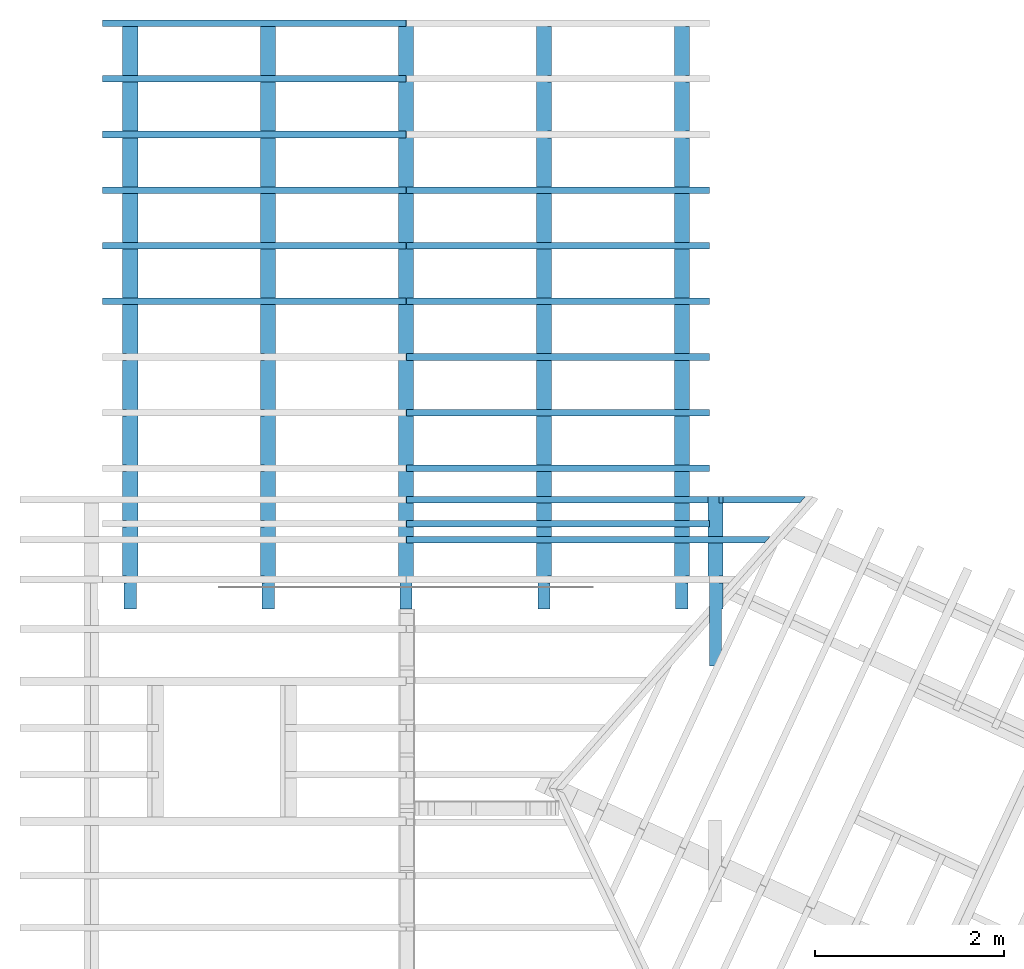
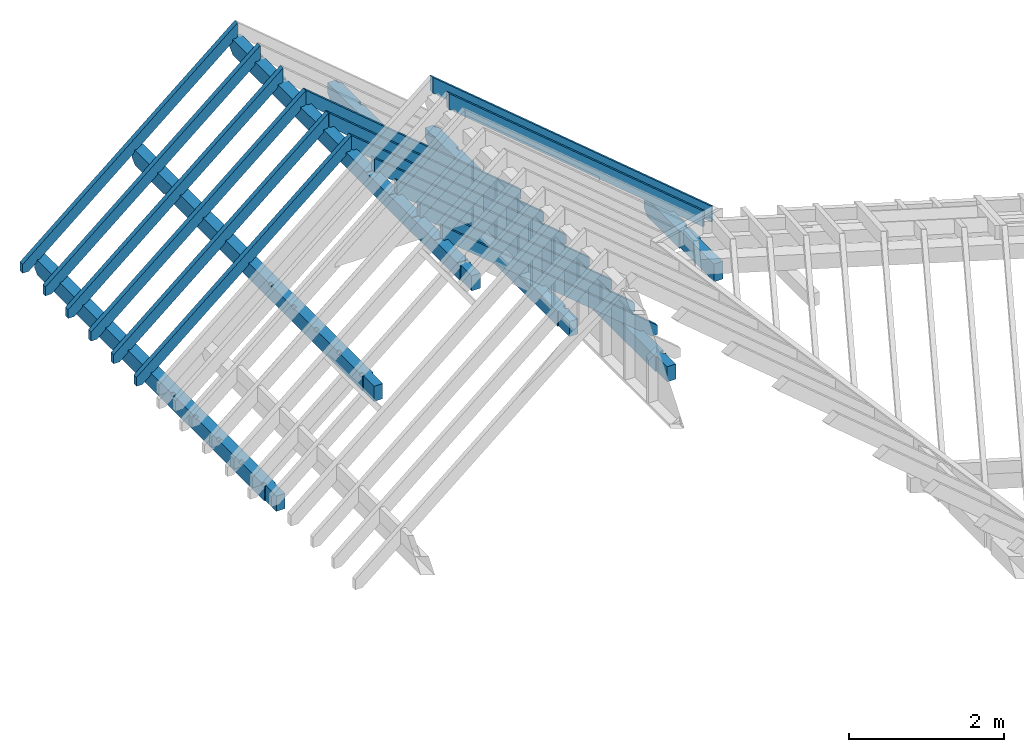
# One storey, part 6 of 11: 21 members.
"""IFC2X3 building model written with IfcOpenShell, lengths in metres."""

from ifc_helpers import new_model, si_unit, direction, frame, origin_with_axes, place, context, subcontext, project, spatial, faceted_brep, material, element, save


model = new_model("IFC2X3")

# Units and contexts
model_context = context("Model", 3, precision=1e-06, world=origin_with_axes(), true_north=direction((0.0, 1.0, 0.0)))
body_context = subcontext(model_context, "Body", "Model", "MODEL_VIEW")
ifc_project = project(units=[si_unit("LENGTHUNIT", "METRE"), si_unit("AREAUNIT", "SQUARE_METRE"), si_unit("VOLUMEUNIT", "CUBIC_METRE"), si_unit("PLANEANGLEUNIT", "RADIAN")], contexts=[model_context])

# Site, building, storey
site_placement = place(None, origin_with_axes())
site = spatial("IfcSite", under=ifc_project, at=site_placement, CompositionType="ELEMENT")
building_placement = place(site_placement, origin_with_axes())
building = spatial("IfcBuilding", under=site, at=building_placement, Name="Building 1", CompositionType="ELEMENT")
storey_placement = place(building_placement, origin_with_axes())
storey = spatial("IfcBuildingStorey", under=building, at=storey_placement, Name="Comble et couverture", CompositionType="ELEMENT", Elevation=0.0)

# Members
ifc_material = material(Name="NH II")
member_1_placement = place(storey_placement, frame((6.631, 7.076, 4.1310549), z_axis=(0.0, 0.0, 1.0), x_axis=(0.0, 1.0, 0.0)))
element("IfcMember", 1, at=member_1_placement, inside=storey, material=ifc_material, Name="Panne", context=body_context, shape_type="Brep", body=[
    faceted_brep([(0.6, -0.08, -0.14), (0.6, -0.065, -0.14), (0.0, -0.065, -0.14), (0.0, 0.065, -0.14), (0.878, 0.065, -0.14), (0.878, 0.08, -0.14), (1.6987918, 0.08, -0.14), (1.6987918, -0.08, -0.14), (0.6, -0.08, 0.14), (0.6, -0.065, 0.14), (0.0, -0.065, 0.14), (0.879, -0.08, 0.14), (0.879, -0.0378342, 0.14), (0.949, -0.0378342, 0.14), (0.949, -0.08, 0.14), (1.3005626, -0.08, 0.14), (1.3005626, -0.0378342, 0.14), (1.3705626, -0.0378342, 0.14), (1.3705626, -0.08, 0.14), (1.7221251, -0.08, 0.14), (1.7221251, -0.0378342, 0.14), (1.7921251, -0.0378342, 0.14), (1.7921251, 0.08, 0.14), (0.878, 0.08, 0.14), (0.878, 0.065, 0.14), (0.0, 0.065, 0.14), (1.7921251, -0.08, -0.0466667), (1.7921251, -0.08, 0.1046187), (1.7221251, -0.08, 0.1046187), (1.3705626, -0.08, 0.1046187), (1.3005626, -0.08, 0.1046187), (0.949, -0.08, 0.1046187), (0.879, -0.08, 0.1046187), (1.7921251, 0.08, -0.0466667)], [[[0, 1, 2, 3, 4, 5, 6, 7]], [[8, 9, 1, 0]], [[9, 10, 2, 1]], [[9, 8, 11, 12, 13, 14, 15, 16, 17, 18, 19, 20, 21, 22, 23, 24, 25, 10]], [[8, 0, 7, 26, 27, 28, 19, 18, 29, 30, 15, 14, 31, 32, 11]], [[4, 3, 25, 24]], [[2, 10, 25, 3]], [[5, 23, 22, 33, 6]], [[7, 6, 33, 26]], [[26, 33, 22, 21, 27]], [[28, 27, 21, 20]], [[19, 28, 20]], [[5, 4, 24, 23]], [[14, 13, 31]], [[12, 11, 32]], [[13, 12, 32, 31]], [[29, 18, 17]], [[15, 30, 16]], [[30, 29, 17, 16]]]),
])
member_2_placement = place(storey_placement, frame((4.814, 7.676, 3.515661), z_axis=(0.0, 0.0, 1.0), x_axis=(0.0, 1.0, 0.0)))
element("IfcMember", 2, at=member_2_placement, inside=storey, material=ifc_material, Name="Panne", context=body_context, shape_type="Brep", body=[
    faceted_brep([(5.2585, 0.08, -0.12), (5.2585, 0.08, -0.105), (5.2585, -0.08, -0.105), (5.2585, -0.08, -0.12), (5.4185, 0.08, -0.105), (5.4185, -0.08, -0.105), (5.4185, 0.08, -0.12), (5.4185, -0.08, -0.12), (0.278, 0.08, -0.12), (0.278, 0.08, 0.12), (6.2385, 0.08, 0.12), (6.2385, 0.08, -0.04), (6.1585, 0.08, -0.12), (0.278, -0.08, -0.12), (0.278, -0.065, -0.12), (0.0, -0.065, -0.12), (0.0, 0.065, -0.12), (0.278, 0.065, -0.12), (0.278, -0.065, 0.12), (0.0, -0.065, 0.12), (0.278, -0.08, 0.12), (0.0, 0.065, 0.12), (0.279, -0.08, 0.12), (0.279, -0.0382886, 0.12), (0.349, -0.0382886, 0.12), (0.349, -0.08, 0.12), (0.86795, -0.08, 0.12), (0.86795, -0.0382886, 0.12), (0.93795, -0.0382886, 0.12), (0.93795, -0.08, 0.12), (1.4569, -0.08, 0.12), (1.4569, -0.0382886, 0.12), (1.5269, -0.0382886, 0.12), (1.5269, -0.08, 0.12), (2.04585, -0.08, 0.12), (2.04585, -0.0382886, 0.12), (2.11585, -0.0382886, 0.12), (2.11585, -0.08, 0.12), (2.6348, -0.08, 0.12), (2.6348, -0.0382886, 0.12), (2.7048, -0.0382886, 0.12), (2.7048, -0.08, 0.12), (3.22375, -0.08, 0.12), (3.22375, -0.0382886, 0.12), (3.29375, -0.0382886, 0.12), (3.29375, -0.08, 0.12), (3.8127, -0.08, 0.12), (3.8127, -0.0382886, 0.12), (3.8827, -0.0382886, 0.12), (3.8827, -0.08, 0.12), (4.40165, -0.08, 0.12), (4.40165, -0.0382886, 0.12), (4.47165, -0.0382886, 0.12), (4.47165, -0.08, 0.12), (4.9906, -0.08, 0.12), (4.9906, -0.0382886, 0.12), (5.0606, -0.0382886, 0.12), (5.0606, -0.08, 0.12), (5.57955, -0.08, 0.12), (5.57955, -0.0382886, 0.12), (5.64955, -0.0382886, 0.12), (5.64955, -0.08, 0.12), (6.1685, -0.08, 0.12), (6.1685, -0.0382886, 0.12), (6.2385, -0.0382886, 0.12), (0.278, 0.065, 0.12), (6.2385, -0.08, -0.04), (6.1585, -0.08, -0.12), (6.2385, -0.08, 0.085), (6.1685, -0.08, 0.085), (5.64955, -0.08, 0.085), (5.57955, -0.08, 0.085), (5.0606, -0.08, 0.085), (4.9906, -0.08, 0.085), (4.47165, -0.08, 0.085), (4.40165, -0.08, 0.085), (3.8827, -0.08, 0.085), (3.8127, -0.08, 0.085), (3.29375, -0.08, 0.085), (3.22375, -0.08, 0.085), (2.7048, -0.08, 0.085), (2.6348, -0.08, 0.085), (2.11585, -0.08, 0.085), (2.04585, -0.08, 0.085), (1.5269, -0.08, 0.085), (1.4569, -0.08, 0.085), (0.93795, -0.08, 0.085), (0.86795, -0.08, 0.085), (0.349, -0.08, 0.085), (0.279, -0.08, 0.085)], [[[0, 1, 2, 3]], [[1, 4, 5, 2]], [[4, 6, 7, 5]], [[6, 4, 1, 0, 8, 9, 10, 11, 12]], [[0, 3, 13, 14, 15, 16, 17, 8]], [[15, 14, 18, 19]], [[14, 13, 20, 18]], [[15, 19, 21, 16]], [[19, 18, 20, 22, 23, 24, 25, 26, 27, 28, 29, 30, 31, 32, 33, 34, 35, 36, 37, 38, 39, 40, 41, 42, 43, 44, 45, 46, 47, 48, 49, 50, 51, 52, 53, 54, 55, 56, 57, 58, 59, 60, 61, 62, 63, 64, 10, 9, 65, 21]], [[17, 16, 21, 65]], [[8, 17, 65, 9]], [[11, 66, 67, 12]], [[5, 7, 67, 66, 68, 69, 62, 61, 70, 71, 58, 57, 72, 73, 54, 53, 74, 75, 50, 49, 76, 77, 46, 45, 78, 79, 42, 41, 80, 81, 38, 37, 82, 83, 34, 33, 84, 85, 30, 29, 86, 87, 26, 25, 88, 89, 22, 20, 13, 3, 2]], [[66, 11, 10, 64, 68]], [[63, 62, 69]], [[64, 63, 69, 68]], [[37, 36, 82]], [[35, 34, 83]], [[36, 35, 83, 82]], [[33, 32, 84]], [[31, 30, 85]], [[32, 31, 85, 84]], [[29, 28, 86]], [[27, 26, 87]], [[28, 27, 87, 86]], [[61, 60, 70]], [[59, 58, 71]], [[60, 59, 71, 70]], [[57, 56, 72]], [[55, 54, 73]], [[56, 55, 73, 72]], [[53, 52, 74]], [[51, 50, 75]], [[52, 51, 75, 74]], [[49, 48, 76]], [[47, 46, 77]], [[48, 47, 77, 76]], [[45, 44, 78]], [[43, 42, 79]], [[44, 43, 79, 78]], [[41, 40, 80]], [[39, 38, 81]], [[40, 39, 81, 80]], [[25, 24, 88]], [[23, 22, 89]], [[24, 23, 89, 88]], [[7, 6, 12, 67]]]),
])
member_3_placement = place(storey_placement, frame((6.274, 7.676, 2.2905755), z_axis=(0.0, 0.0, 1.0), x_axis=(0.0, 1.0, 0.0)))
element("IfcMember", 3, at=member_3_placement, inside=storey, material=ifc_material, Name="Panne", context=body_context, shape_type="Brep", body=[
    faceted_brep([(6.2385, 0.08, 0.12), (0.278, 0.08, 0.12), (0.278, 0.065, 0.12), (0.0, 0.065, 0.12), (0.0, -0.065, 0.12), (0.278, -0.065, 0.12), (0.278, -0.08, 0.12), (0.279, -0.08, 0.12), (0.279, -0.0382886, 0.12), (0.349, -0.0382886, 0.12), (0.349, -0.08, 0.12), (0.86795, -0.08, 0.12), (0.86795, -0.0382886, 0.12), (0.93795, -0.0382886, 0.12), (0.93795, -0.08, 0.12), (1.4569, -0.08, 0.12), (1.4569, -0.0382886, 0.12), (1.5269, -0.0382886, 0.12), (1.5269, -0.08, 0.12), (2.04585, -0.08, 0.12), (2.04585, -0.0382886, 0.12), (2.11585, -0.0382886, 0.12), (2.11585, -0.08, 0.12), (2.6348, -0.08, 0.12), (2.6348, -0.0382886, 0.12), (2.7048, -0.0382886, 0.12), (2.7048, -0.08, 0.12), (3.22375, -0.08, 0.12), (3.22375, -0.0382886, 0.12), (3.29375, -0.0382886, 0.12), (3.29375, -0.08, 0.12), (3.8127, -0.08, 0.12), (3.8127, -0.0382886, 0.12), (3.8827, -0.0382886, 0.12), (3.8827, -0.08, 0.12), (4.40165, -0.08, 0.12), (4.40165, -0.0382886, 0.12), (4.47165, -0.0382886, 0.12), (4.47165, -0.08, 0.12), (4.9906, -0.08, 0.12), (4.9906, -0.0382886, 0.12), (5.0606, -0.0382886, 0.12), (5.0606, -0.08, 0.12), (5.57955, -0.08, 0.12), (5.57955, -0.0382886, 0.12), (5.64955, -0.0382886, 0.12), (5.64955, -0.08, 0.12), (6.1685, -0.08, 0.12), (6.1685, -0.0382886, 0.12), (6.2385, -0.0382886, 0.12), (6.2385, 0.08, -0.04), (6.1585, 0.08, -0.12), (0.278, 0.08, -0.12), (0.0, -0.065, -0.12), (0.278, -0.065, -0.12), (0.278, -0.08, -0.12), (0.0, 0.065, -0.12), (0.278, 0.065, -0.12), (6.2385, -0.08, -0.04), (6.1585, -0.08, -0.12), (6.2385, -0.08, 0.085), (6.1685, -0.08, 0.085), (5.64955, -0.08, 0.085), (5.57955, -0.08, 0.085), (5.0606, -0.08, 0.085), (4.9906, -0.08, 0.085), (4.47165, -0.08, 0.085), (4.40165, -0.08, 0.085), (3.8827, -0.08, 0.085), (3.8127, -0.08, 0.085), (3.29375, -0.08, 0.085), (3.22375, -0.08, 0.085), (2.7048, -0.08, 0.085), (2.6348, -0.08, 0.085), (2.11585, -0.08, 0.085), (2.04585, -0.08, 0.085), (1.5269, -0.08, 0.085), (1.4569, -0.08, 0.085), (0.93795, -0.08, 0.085), (0.86795, -0.08, 0.085), (0.349, -0.08, 0.085), (0.279, -0.08, 0.085)], [[[0, 1, 2, 3, 4, 5, 6, 7, 8, 9, 10, 11, 12, 13, 14, 15, 16, 17, 18, 19, 20, 21, 22, 23, 24, 25, 26, 27, 28, 29, 30, 31, 32, 33, 34, 35, 36, 37, 38, 39, 40, 41, 42, 43, 44, 45, 46, 47, 48, 49]], [[1, 0, 50, 51, 52]], [[53, 54, 5, 4]], [[54, 55, 6, 5]], [[53, 4, 3, 56]], [[57, 56, 3, 2]], [[52, 57, 2, 1]], [[50, 58, 59, 51]], [[6, 55, 59, 58, 60, 61, 47, 46, 62, 63, 43, 42, 64, 65, 39, 38, 66, 67, 35, 34, 68, 69, 31, 30, 70, 71, 27, 26, 72, 73, 23, 22, 74, 75, 19, 18, 76, 77, 15, 14, 78, 79, 11, 10, 80, 81, 7]], [[58, 50, 0, 49, 60]], [[48, 47, 61]], [[49, 48, 61, 60]], [[22, 21, 74]], [[20, 19, 75]], [[21, 20, 75, 74]], [[18, 17, 76]], [[16, 15, 77]], [[17, 16, 77, 76]], [[14, 13, 78]], [[12, 11, 79]], [[13, 12, 79, 78]], [[46, 45, 62]], [[44, 43, 63]], [[45, 44, 63, 62]], [[42, 41, 64]], [[40, 39, 65]], [[41, 40, 65, 64]], [[38, 37, 66]], [[36, 35, 67]], [[37, 36, 67, 66]], [[34, 33, 68]], [[32, 31, 69]], [[33, 32, 69, 68]], [[30, 29, 70]], [[28, 27, 71]], [[29, 28, 71, 70]], [[26, 25, 72]], [[24, 23, 73]], [[25, 24, 73, 72]], [[10, 9, 80]], [[8, 7, 81]], [[9, 8, 81, 80]], [[52, 51, 59, 55, 54, 53, 56, 57]]]),
])
for number, where, z_axis, x_axis, name in (
    (4, (3.3033887, 8.57895, 5.0430385), (0.6427876, 0.0, 0.7660444), (0.7660444, 0.0, -0.6427876), "Chevron"),
    (5, (3.3033887, 12.11265, 5.0430385), (0.6427876, 0.0, 0.7660444), (0.7660444, 0.0, -0.6427876), "Chevron"),
):
    element("IfcMember", number, at=place(storey_placement, frame(where, z_axis=z_axis, x_axis=x_axis)), inside=storey, material=ifc_material, Name=name, context=body_context, shape_type="Brep", body=[
        faceted_brep([(0.0, 0.035, 0.0825), (0.0, -0.035, 0.0825), (4.1925587, -0.035, 0.0825), (4.1925587, 0.035, 0.0825), (0.2397267, -0.035, -0.0825), (0.2397267, 0.035, -0.0825), (4.2137207, 0.035, -0.0825), (4.2137207, -0.035, -0.0825), (0.1852763, -0.035, -0.0825), (0.2172291, -0.035, -0.0556884), (4.282549, -0.035, -0.0247462), (0.1384514, -0.035, -0.0825), (0.2172291, 0.035, -0.0556884), (0.1852763, 0.035, -0.0825), (0.1384514, 0.035, -0.0825), (4.282549, 0.035, -0.0247462)], [[[0, 1, 2, 3]], [[4, 5, 6, 7]], [[8, 9, 4, 7, 10, 2, 1, 11]], [[12, 13, 14, 0, 3, 15, 6, 5]], [[13, 12, 9, 8]], [[12, 5, 4, 9]], [[13, 8, 11, 14]], [[0, 14, 11, 1]], [[10, 15, 3, 2]], [[6, 15, 10, 7]]]),
    ])
member_4_placement = place(storey_placement, frame((3.4044486, 12.11265, 5.042902), z_axis=(-0.6427876, 0.0, 0.7660444), x_axis=(-0.7660444, 0.0, -0.6427876)))
element("IfcMember", 6, at=member_4_placement, inside=storey, material=ifc_material, Name="Chevron", context=body_context, shape_type="Brep", body=[
    faceted_brep([(4.2823188, 0.035, -0.0247612), (4.2823188, -0.035, -0.0247612), (4.2135084, -0.035, -0.0825), (4.2135084, 0.035, -0.0825), (4.1923159, -0.035, 0.0825), (0.0, -0.035, 0.0825), (0.1384514, -0.035, -0.0825), (0.185064, -0.035, -0.0825), (0.2170168, -0.035, -0.0556884), (0.2395143, -0.035, -0.0825), (4.1923159, 0.035, 0.0825), (0.2395143, 0.035, -0.0825), (0.2170168, 0.035, -0.0556884), (0.185064, 0.035, -0.0825), (0.1384514, 0.035, -0.0825), (0.0, 0.035, 0.0825)], [[[0, 1, 2, 3]], [[2, 1, 4, 5, 6, 7, 8, 9]], [[1, 0, 10, 4]], [[0, 3, 11, 12, 13, 14, 15, 10]], [[9, 8, 12, 11]], [[8, 7, 13, 12]], [[13, 7, 6, 14]], [[3, 2, 9, 11]], [[15, 14, 6, 5]], [[4, 10, 15, 5]]]),
])
member_5_placement = place(storey_placement, frame((3.3033887, 11.5237, 5.0430385), z_axis=(0.6427876, 0.0, 0.7660444), x_axis=(0.7660444, 0.0, -0.6427876)))
element("IfcMember", 7, at=member_5_placement, inside=storey, material=ifc_material, Name="Chevron", context=body_context, shape_type="Brep", body=[
    faceted_brep([(0.0, 0.035, 0.0825), (0.0, -0.035, 0.0825), (4.1925587, -0.035, 0.0825), (4.1925587, 0.035, 0.0825), (0.2397267, -0.035, -0.0825), (0.2397267, 0.035, -0.0825), (4.2137207, 0.035, -0.0825), (4.2137207, -0.035, -0.0825), (0.1852763, -0.035, -0.0825), (0.2172291, -0.035, -0.0556884), (4.282549, -0.035, -0.0247462), (0.1384514, -0.035, -0.0825), (0.2172291, 0.035, -0.0556884), (0.1852763, 0.035, -0.0825), (0.1384514, 0.035, -0.0825), (4.282549, 0.035, -0.0247462)], [[[0, 1, 2, 3]], [[4, 5, 6, 7]], [[8, 9, 4, 7, 10, 2, 1, 11]], [[12, 13, 14, 0, 3, 15, 6, 5]], [[13, 12, 9, 8]], [[12, 5, 4, 9]], [[13, 8, 11, 14]], [[0, 14, 11, 1]], [[10, 15, 3, 2]], [[6, 15, 10, 7]]]),
])
member_6_placement = place(storey_placement, frame((3.294711, 8.4115626, 7.2275995), z_axis=(0.6427876, 0.0, 0.7660444), x_axis=(0.7660444, 0.0, -0.6427876)))
element("IfcMember", 8, at=member_6_placement, inside=storey, material=ifc_material, Name="Chevron", context=body_context, shape_type="Brep", body=[
    faceted_brep([(5.113018, -0.035, -0.096), (5.1933648, 0.035, -0.096), (5.0322577, 0.035, 0.096), (4.9519109, -0.035, 0.096), (0.2622762, 0.035, -0.096), (0.2397786, 0.035, -0.0691884), (0.2078259, 0.035, -0.096), (0.1611071, 0.035, -0.096), (0.0, 0.035, 0.096), (0.2622762, -0.035, -0.096), (0.0, -0.035, 0.096), (0.1611071, -0.035, -0.096), (0.2078259, -0.035, -0.096), (0.2397786, -0.035, -0.0691884)], [[[0, 1, 2, 3]], [[2, 1, 4, 5, 6, 7, 8]], [[1, 0, 9, 4]], [[0, 3, 10, 11, 12, 13, 9]], [[3, 2, 8, 10]], [[6, 5, 13, 12]], [[5, 4, 9, 13]], [[6, 12, 11, 7]], [[10, 8, 7, 11]]]),
])
member_7_placement = place(storey_placement, frame((1.894, 13.9145, 3.515661), z_axis=(0.0, 0.0, 1.0), x_axis=(0.0, -1.0, 0.0)))
element("IfcMember", 9, at=member_7_placement, inside=storey, material=ifc_material, Name="Panne", context=body_context, shape_type="Brep", body=[
    faceted_brep([(0.82, 0.08, -0.12), (0.82, 0.08, -0.105), (0.82, -0.08, -0.105), (0.82, -0.08, -0.12), (0.98, 0.08, -0.105), (0.98, -0.08, -0.105), (0.98, 0.08, -0.12), (0.98, -0.08, -0.12), (0.08, 0.08, -0.12), (0.0, 0.08, -0.04), (0.0, 0.08, 0.12), (5.9605, 0.08, 0.12), (5.9605, 0.08, -0.12), (0.08, -0.08, -0.12), (5.9605, 0.065, 0.12), (5.9605, 0.065, -0.12), (6.2385, 0.065, 0.12), (6.2385, 0.065, -0.12), (6.2385, -0.065, -0.12), (5.9605, -0.065, -0.12), (5.9605, -0.08, -0.12), (6.2385, -0.065, 0.12), (5.9605, -0.065, 0.12), (5.9605, -0.08, 0.12), (0.0, -0.08, -0.04), (5.9595, -0.08, 0.12), (5.9595, -0.08, 0.085), (5.8895, -0.08, 0.085), (5.8895, -0.08, 0.12), (5.37055, -0.08, 0.12), (5.37055, -0.08, 0.085), (5.30055, -0.08, 0.085), (5.30055, -0.08, 0.12), (4.7816, -0.08, 0.12), (4.7816, -0.08, 0.085), (4.7116, -0.08, 0.085), (4.7116, -0.08, 0.12), (4.19265, -0.08, 0.12), (4.19265, -0.08, 0.085), (4.12265, -0.08, 0.085), (4.12265, -0.08, 0.12), (3.6037, -0.08, 0.12), (3.6037, -0.08, 0.085), (3.5337, -0.08, 0.085), (3.5337, -0.08, 0.12), (3.01475, -0.08, 0.12), (3.01475, -0.08, 0.085), (2.94475, -0.08, 0.085), (2.94475, -0.08, 0.12), (2.4258, -0.08, 0.12), (2.4258, -0.08, 0.085), (2.3558, -0.08, 0.085), (2.3558, -0.08, 0.12), (1.83685, -0.08, 0.12), (1.83685, -0.08, 0.085), (1.76685, -0.08, 0.085), (1.76685, -0.08, 0.12), (1.2479, -0.08, 0.12), (1.2479, -0.08, 0.085), (1.1779, -0.08, 0.085), (1.1779, -0.08, 0.12), (0.65895, -0.08, 0.12), (0.65895, -0.08, 0.085), (0.58895, -0.08, 0.085), (0.58895, -0.08, 0.12), (0.07, -0.08, 0.12), (0.07, -0.08, 0.085), (0.0, -0.08, 0.085), (4.12265, -0.0382886, 0.12), (4.19265, -0.0382886, 0.12), (0.0, -0.0382886, 0.12), (0.07, -0.0382886, 0.12), (0.58895, -0.0382886, 0.12), (0.65895, -0.0382886, 0.12), (1.1779, -0.0382886, 0.12), (1.2479, -0.0382886, 0.12), (1.76685, -0.0382886, 0.12), (1.83685, -0.0382886, 0.12), (2.3558, -0.0382886, 0.12), (2.4258, -0.0382886, 0.12), (2.94475, -0.0382886, 0.12), (3.01475, -0.0382886, 0.12), (3.5337, -0.0382886, 0.12), (3.6037, -0.0382886, 0.12), (4.7116, -0.0382886, 0.12), (4.7816, -0.0382886, 0.12), (5.30055, -0.0382886, 0.12), (5.37055, -0.0382886, 0.12), (5.8895, -0.0382886, 0.12), (5.9595, -0.0382886, 0.12)], [[[0, 1, 2, 3]], [[1, 4, 5, 2]], [[4, 6, 7, 5]], [[6, 4, 1, 0, 8, 9, 10, 11, 12]], [[0, 3, 13, 8]], [[11, 14, 15, 12]], [[14, 16, 17, 15]], [[7, 6, 12, 15, 17, 18, 19, 20]], [[21, 22, 19, 18]], [[22, 23, 20, 19]], [[17, 16, 21, 18]], [[8, 13, 24, 9]], [[5, 7, 20, 23, 25, 26, 27, 28, 29, 30, 31, 32, 33, 34, 35, 36, 37, 38, 39, 40, 41, 42, 43, 44, 45, 46, 47, 48, 49, 50, 51, 52, 53, 54, 55, 56, 57, 58, 59, 60, 61, 62, 63, 64, 65, 66, 67, 24, 13, 3, 2]], [[40, 39, 68]], [[38, 37, 69]], [[39, 38, 69, 68]], [[14, 11, 10, 70, 71, 65, 64, 72, 73, 61, 60, 74, 75, 57, 56, 76, 77, 53, 52, 78, 79, 49, 48, 80, 81, 45, 44, 82, 83, 41, 40, 68, 69, 37, 36, 84, 85, 33, 32, 86, 87, 29, 28, 88, 89, 25, 23, 22, 21, 16]], [[36, 35, 84]], [[34, 33, 85]], [[35, 34, 85, 84]], [[32, 31, 86]], [[30, 29, 87]], [[31, 30, 87, 86]], [[64, 63, 72]], [[62, 61, 73]], [[63, 62, 73, 72]], [[60, 59, 74]], [[58, 57, 75]], [[59, 58, 75, 74]], [[56, 55, 76]], [[54, 53, 77]], [[55, 54, 77, 76]], [[52, 51, 78]], [[50, 49, 79]], [[51, 50, 79, 78]], [[48, 47, 80]], [[46, 45, 81]], [[47, 46, 81, 80]], [[44, 43, 82]], [[42, 41, 83]], [[43, 42, 83, 82]], [[66, 65, 71]], [[67, 66, 71, 70]], [[9, 24, 67, 70, 10]], [[89, 88, 27, 26]], [[25, 89, 26]], [[88, 28, 27]]]),
])
member_8_placement = place(storey_placement, frame((3.294711, 8.8331251, 7.2275995), z_axis=(0.6427876, 0.0, 0.7660444), x_axis=(0.7660444, 0.0, -0.6427876)))
element("IfcMember", 10, at=member_8_placement, inside=storey, material=ifc_material, Name="Chevron", context=body_context, shape_type="Brep", body=[
    faceted_brep([(5.6619545, 0.035, -0.0777844), (5.640246, 0.0027707, -0.096), (5.640246, 0.035, -0.096), (5.5968923, -0.035, -0.096), (0.2622762, -0.035, -0.096), (0.2622762, 0.035, -0.096), (5.516132, 0.035, 0.096), (5.4357852, -0.035, 0.096), (0.2397786, 0.035, -0.0691884), (0.2078259, 0.035, -0.096), (0.1611071, 0.035, -0.096), (0.0, 0.035, 0.096), (0.0, -0.035, 0.096), (0.1611071, -0.035, -0.096), (0.2078259, -0.035, -0.096), (0.2397786, -0.035, -0.0691884)], [[[0, 1, 2]], [[2, 1, 3, 4, 5]], [[1, 0, 6, 7, 3]], [[0, 2, 5, 8, 9, 10, 11, 6]], [[3, 7, 12, 13, 14, 15, 4]], [[7, 6, 11, 12]], [[9, 8, 15, 14]], [[8, 5, 4, 15]], [[9, 14, 13, 10]], [[12, 11, 10, 13]]]),
])
member_9_placement = place(storey_placement, frame((3.3033887, 9.75685, 5.0430385), z_axis=(0.6427876, 0.0, 0.7660444), x_axis=(0.7660444, 0.0, -0.6427876)))
element("IfcMember", 11, at=member_9_placement, inside=storey, material=ifc_material, Name="Chevron", context=body_context, shape_type="Brep", body=[
    faceted_brep([(0.0, 0.035, 0.0825), (0.0, -0.035, 0.0825), (4.1925587, -0.035, 0.0825), (4.1925587, 0.035, 0.0825), (0.2397267, -0.035, -0.0825), (0.2397267, 0.035, -0.0825), (4.2137207, 0.035, -0.0825), (4.2137207, -0.035, -0.0825), (0.1852763, -0.035, -0.0825), (0.2172291, -0.035, -0.0556884), (4.282549, -0.035, -0.0247462), (0.1384514, -0.035, -0.0825), (0.2172291, 0.035, -0.0556884), (0.1852763, 0.035, -0.0825), (0.1384514, 0.035, -0.0825), (4.282549, 0.035, -0.0247462)], [[[0, 1, 2, 3]], [[4, 5, 6, 7]], [[8, 9, 4, 7, 10, 2, 1, 11]], [[12, 13, 14, 0, 3, 15, 6, 5]], [[13, 12, 9, 8]], [[12, 5, 4, 9]], [[13, 8, 11, 14]], [[0, 14, 11, 1]], [[10, 15, 3, 2]], [[6, 15, 10, 7]]]),
])
member_10_placement = place(storey_placement, frame((3.4044486, 13.29055, 5.042902), z_axis=(-0.6427876, 0.0, 0.7660444), x_axis=(-0.7660444, 0.0, -0.6427876)))
element("IfcMember", 12, at=member_10_placement, inside=storey, material=ifc_material, Name="Chevron", context=body_context, shape_type="Brep", body=[
    faceted_brep([(4.2823188, 0.035, -0.0247612), (4.2823188, -0.035, -0.0247612), (4.2135084, -0.035, -0.0825), (4.2135084, 0.035, -0.0825), (4.1923159, -0.035, 0.0825), (0.0, -0.035, 0.0825), (0.1384514, -0.035, -0.0825), (0.185064, -0.035, -0.0825), (0.2170168, -0.035, -0.0556884), (0.2395143, -0.035, -0.0825), (4.1923159, 0.035, 0.0825), (0.2395143, 0.035, -0.0825), (0.2170168, 0.035, -0.0556884), (0.185064, 0.035, -0.0825), (0.1384514, 0.035, -0.0825), (0.0, 0.035, 0.0825)], [[[0, 1, 2, 3]], [[2, 1, 4, 5, 6, 7, 8, 9]], [[1, 0, 10, 4]], [[0, 3, 11, 12, 13, 14, 15, 10]], [[9, 8, 12, 11]], [[8, 7, 13, 12]], [[13, 7, 6, 14]], [[3, 2, 9, 11]], [[15, 14, 6, 5]], [[4, 10, 15, 5]]]),
])
member_11_placement = place(storey_placement, frame((3.3033887, 10.93475, 5.0430385), z_axis=(0.6427876, 0.0, 0.7660444), x_axis=(0.7660444, 0.0, -0.6427876)))
element("IfcMember", 13, at=member_11_placement, inside=storey, material=ifc_material, Name="Chevron", context=body_context, shape_type="Brep", body=[
    faceted_brep([(0.0, 0.035, 0.0825), (0.0, -0.035, 0.0825), (4.1925587, -0.035, 0.0825), (4.1925587, 0.035, 0.0825), (0.2397267, -0.035, -0.0825), (0.2397267, 0.035, -0.0825), (4.2137207, 0.035, -0.0825), (4.2137207, -0.035, -0.0825), (0.1852763, -0.035, -0.0825), (0.2172291, -0.035, -0.0556884), (4.282549, -0.035, -0.0247462), (0.1384514, -0.035, -0.0825), (0.2172291, 0.035, -0.0556884), (0.1852763, 0.035, -0.0825), (0.1384514, 0.035, -0.0825), (4.282549, 0.035, -0.0247462)], [[[0, 1, 2, 3]], [[4, 5, 6, 7]], [[8, 9, 4, 7, 10, 2, 1, 11]], [[12, 13, 14, 0, 3, 15, 6, 5]], [[13, 12, 9, 8]], [[12, 5, 4, 9]], [[13, 8, 11, 14]], [[0, 14, 11, 1]], [[10, 15, 3, 2]], [[6, 15, 10, 7]]]),
])
member_12_placement = place(storey_placement, frame((3.4044486, 10.93475, 5.042902), z_axis=(-0.6427876, 0.0, 0.7660444), x_axis=(-0.7660444, 0.0, -0.6427876)))
element("IfcMember", 14, at=member_12_placement, inside=storey, material=ifc_material, Name="Chevron", context=body_context, shape_type="Brep", body=[
    faceted_brep([(4.2823188, 0.035, -0.0247612), (4.2823188, -0.035, -0.0247612), (4.2135084, -0.035, -0.0825), (4.2135084, 0.035, -0.0825), (4.1923159, -0.035, 0.0825), (0.0, -0.035, 0.0825), (0.1384514, -0.035, -0.0825), (0.185064, -0.035, -0.0825), (0.2170168, -0.035, -0.0556884), (0.2395143, -0.035, -0.0825), (4.1923159, 0.035, 0.0825), (0.2395143, 0.035, -0.0825), (0.2170168, 0.035, -0.0556884), (0.185064, 0.035, -0.0825), (0.1384514, 0.035, -0.0825), (0.0, 0.035, 0.0825)], [[[0, 1, 2, 3]], [[2, 1, 4, 5, 6, 7, 8, 9]], [[1, 0, 10, 4]], [[0, 3, 11, 12, 13, 14, 15, 10]], [[9, 8, 12, 11]], [[8, 7, 13, 12]], [[13, 7, 6, 14]], [[3, 2, 9, 11]], [[15, 14, 6, 5]], [[4, 10, 15, 5]]]),
])
member_13_placement = place(storey_placement, frame((3.3033887, 10.3458, 5.0430385), z_axis=(0.6427876, 0.0, 0.7660444), x_axis=(0.7660444, 0.0, -0.6427876)))
element("IfcMember", 15, at=member_13_placement, inside=storey, material=ifc_material, Name="Chevron", context=body_context, shape_type="Brep", body=[
    faceted_brep([(0.0, 0.035, 0.0825), (0.0, -0.035, 0.0825), (4.1925587, -0.035, 0.0825), (4.1925587, 0.035, 0.0825), (0.2397267, -0.035, -0.0825), (0.2397267, 0.035, -0.0825), (4.2137207, 0.035, -0.0825), (4.2137207, -0.035, -0.0825), (0.1852763, -0.035, -0.0825), (0.2172291, -0.035, -0.0556884), (4.282549, -0.035, -0.0247462), (0.1384514, -0.035, -0.0825), (0.2172291, 0.035, -0.0556884), (0.1852763, 0.035, -0.0825), (0.1384514, 0.035, -0.0825), (4.282549, 0.035, -0.0247462)], [[[0, 1, 2, 3]], [[4, 5, 6, 7]], [[8, 9, 4, 7, 10, 2, 1, 11]], [[12, 13, 14, 0, 3, 15, 6, 5]], [[13, 12, 9, 8]], [[12, 5, 4, 9]], [[13, 8, 11, 14]], [[0, 14, 11, 1]], [[10, 15, 3, 2]], [[6, 15, 10, 7]]]),
])
for number, where, z_axis, x_axis, name in (
    (16, (3.4044486, 11.5237, 5.042902), (-0.6427876, 0.0, 0.7660444), (-0.7660444, 0.0, -0.6427876), "Chevron"),
    (17, (3.4044486, 12.7016, 5.042902), (-0.6427876, 0.0, 0.7660444), (-0.7660444, 0.0, -0.6427876), "Chevron"),
    (18, (3.4044486, 13.8795, 5.042902), (-0.6427876, 0.0, 0.7660444), (-0.7660444, 0.0, -0.6427876), "Chevron"),
):
    element("IfcMember", number, at=place(storey_placement, frame(where, z_axis=z_axis, x_axis=x_axis)), inside=storey, material=ifc_material, Name=name, context=body_context, shape_type="Brep", body=[
        faceted_brep([(4.2823188, 0.035, -0.0247612), (4.2823188, -0.035, -0.0247612), (4.2135084, -0.035, -0.0825), (4.2135084, 0.035, -0.0825), (4.1923159, -0.035, 0.0825), (0.0, -0.035, 0.0825), (0.1384514, -0.035, -0.0825), (0.185064, -0.035, -0.0825), (0.2170168, -0.035, -0.0556884), (0.2395143, -0.035, -0.0825), (4.1923159, 0.035, 0.0825), (0.2395143, 0.035, -0.0825), (0.2170168, 0.035, -0.0556884), (0.185064, 0.035, -0.0825), (0.1384514, 0.035, -0.0825), (0.0, 0.035, 0.0825)], [[[0, 1, 2, 3]], [[2, 1, 4, 5, 6, 7, 8, 9]], [[1, 0, 10, 4]], [[0, 3, 11, 12, 13, 14, 15, 10]], [[9, 8, 12, 11]], [[8, 7, 13, 12]], [[13, 7, 6, 14]], [[3, 2, 9, 11]], [[15, 14, 6, 5]], [[4, 10, 15, 5]]]),
    ])
member_14_placement = place(storey_placement, frame((3.3033887, 9.1679, 5.0430385), z_axis=(0.6427876, 0.0, 0.7660444), x_axis=(0.7660444, 0.0, -0.6427876)))
element("IfcMember", 19, at=member_14_placement, inside=storey, material=ifc_material, Name="Chevron", context=body_context, shape_type="Brep", body=[
    faceted_brep([(0.0, 0.035, 0.0825), (0.0, -0.035, 0.0825), (4.1925587, -0.035, 0.0825), (4.1925587, 0.035, 0.0825), (0.2397267, -0.035, -0.0825), (0.2397267, 0.035, -0.0825), (4.2137207, 0.035, -0.0825), (4.2137207, -0.035, -0.0825), (0.1852763, -0.035, -0.0825), (0.2172291, -0.035, -0.0556884), (4.282549, -0.035, -0.0247462), (0.1384514, -0.035, -0.0825), (0.2172291, 0.035, -0.0556884), (0.1852763, 0.035, -0.0825), (0.1384514, 0.035, -0.0825), (4.282549, 0.035, -0.0247462)], [[[0, 1, 2, 3]], [[4, 5, 6, 7]], [[8, 9, 4, 7, 10, 2, 1, 11]], [[12, 13, 14, 0, 3, 15, 6, 5]], [[13, 12, 9, 8]], [[12, 5, 4, 9]], [[13, 8, 11, 14]], [[0, 14, 11, 1]], [[10, 15, 3, 2]], [[6, 15, 10, 7]]]),
])
member_15_placement = place(storey_placement, frame((3.354, 13.9145, 4.7507465), z_axis=(0.0, 0.0, 1.0), x_axis=(0.0, -1.0, 0.0)))
element("IfcMember", 20, at=member_15_placement, inside=storey, material=ifc_material, Name="Panne", context=body_context, shape_type="Brep", body=[
    faceted_brep([(0.98, 0.08, -0.12), (0.98, -0.08, -0.12), (0.98, -0.08, -0.105), (0.98, 0.08, -0.105), (0.82, 0.08, -0.105), (0.82, -0.08, -0.105), (0.82, -0.08, -0.12), (0.82, 0.08, -0.12), (5.9605, -0.08, -0.12), (5.9605, -0.08, 0.12), (5.9595, -0.08, 0.12), (5.9595, -0.08, 0.11), (5.8895, -0.08, 0.11), (5.8895, -0.08, 0.12), (5.37055, -0.08, 0.12), (5.37055, -0.08, 0.11), (5.30055, -0.08, 0.11), (5.30055, -0.08, 0.12), (4.7816, -0.08, 0.12), (4.7816, -0.08, 0.11), (4.7116, -0.08, 0.11), (4.7116, -0.08, 0.12), (4.19265, -0.08, 0.12), (4.19265, -0.08, 0.11), (4.12265, -0.08, 0.11), (4.12265, -0.08, 0.12), (3.6037, -0.08, 0.12), (3.6037, -0.08, 0.11), (3.5337, -0.08, 0.11), (3.5337, -0.08, 0.12), (3.01475, -0.08, 0.12), (3.01475, -0.08, 0.11), (2.94475, -0.08, 0.11), (2.94475, -0.08, 0.12), (2.4258, -0.08, 0.12), (2.4258, -0.08, 0.11), (2.3558, -0.08, 0.11), (2.3558, -0.08, 0.12), (1.83685, -0.08, 0.12), (1.83685, -0.08, 0.11), (1.76685, -0.08, 0.11), (1.76685, -0.08, 0.12), (1.2479, -0.08, 0.12), (1.2479, -0.08, 0.11), (1.1779, -0.08, 0.11), (1.1779, -0.08, 0.12), (0.65895, -0.08, 0.12), (0.65895, -0.08, 0.11), (0.58895, -0.08, 0.11), (0.58895, -0.08, 0.12), (0.07, -0.08, 0.12), (0.07, -0.08, 0.11), (0.0, -0.08, 0.11), (0.0, -0.08, -0.04), (0.08, -0.08, -0.12), (5.9605, 0.08, -0.12), (5.9605, 0.065, -0.12), (6.2385, 0.065, -0.12), (6.2385, -0.065, -0.12), (5.9605, -0.065, -0.12), (5.9605, 0.065, 0.12), (6.2385, 0.065, 0.12), (5.9605, 0.08, 0.12), (6.2385, -0.065, 0.12), (5.9595, 0.08, 0.12), (5.9605, -0.065, 0.12), (0.07, 0.08, 0.12), (0.58895, 0.08, 0.12), (0.65895, 0.08, 0.12), (1.1779, 0.08, 0.12), (1.2479, 0.08, 0.12), (1.76685, 0.08, 0.12), (1.83685, 0.08, 0.12), (2.3558, 0.08, 0.12), (2.4258, 0.08, 0.12), (2.94475, 0.08, 0.12), (3.01475, 0.08, 0.12), (3.5337, 0.08, 0.12), (3.6037, 0.08, 0.12), (4.12265, 0.08, 0.12), (4.19265, 0.08, 0.12), (4.7116, 0.08, 0.12), (4.7816, 0.08, 0.12), (5.30055, 0.08, 0.12), (5.37055, 0.08, 0.12), (5.8895, 0.08, 0.12), (0.0, 0.08, -0.04), (0.08, 0.08, -0.12), (0.0, 0.08, 0.11), (0.07, 0.08, 0.11), (0.58895, 0.08, 0.11), (0.65895, 0.08, 0.11), (1.1779, 0.08, 0.11), (1.2479, 0.08, 0.11), (1.76685, 0.08, 0.11), (1.83685, 0.08, 0.11), (2.3558, 0.08, 0.11), (2.4258, 0.08, 0.11), (2.94475, 0.08, 0.11), (3.01475, 0.08, 0.11), (3.5337, 0.08, 0.11), (3.6037, 0.08, 0.11), (4.12265, 0.08, 0.11), (4.19265, 0.08, 0.11), (4.7116, 0.08, 0.11), (4.7816, 0.08, 0.11), (5.30055, 0.08, 0.11), (5.37055, 0.08, 0.11), (5.8895, 0.08, 0.11), (5.9595, 0.08, 0.11)], [[[0, 1, 2, 3]], [[4, 3, 2, 5]], [[6, 7, 4, 5]], [[6, 5, 2, 1, 8, 9, 10, 11, 12, 13, 14, 15, 16, 17, 18, 19, 20, 21, 22, 23, 24, 25, 26, 27, 28, 29, 30, 31, 32, 33, 34, 35, 36, 37, 38, 39, 40, 41, 42, 43, 44, 45, 46, 47, 48, 49, 50, 51, 52, 53, 54]], [[1, 0, 55, 56, 57, 58, 59, 8]], [[57, 56, 60, 61]], [[56, 55, 62, 60]], [[57, 61, 63, 58]], [[61, 60, 62, 64, 10, 9, 65, 63]], [[59, 58, 63, 65]], [[8, 59, 65, 9]], [[66, 50, 49, 67]], [[68, 46, 45, 69]], [[70, 42, 41, 71]], [[72, 38, 37, 73]], [[74, 34, 33, 75]], [[76, 30, 29, 77]], [[78, 26, 25, 79]], [[80, 22, 21, 81]], [[82, 18, 17, 83]], [[84, 14, 13, 85]], [[53, 86, 87, 54]], [[4, 7, 87, 86, 88, 89, 66, 67, 90, 91, 68, 69, 92, 93, 70, 71, 94, 95, 72, 73, 96, 97, 74, 75, 98, 99, 76, 77, 100, 101, 78, 79, 102, 103, 80, 81, 104, 105, 82, 83, 106, 107, 84, 85, 108, 109, 64, 62, 55, 0, 3]], [[52, 88, 86, 53]], [[51, 89, 88, 52]], [[50, 66, 89, 51]], [[80, 103, 23, 22]], [[102, 24, 23, 103]], [[102, 79, 25, 24]], [[82, 105, 19, 18]], [[104, 20, 19, 105]], [[104, 81, 21, 20]], [[84, 107, 15, 14]], [[106, 16, 15, 107]], [[106, 83, 17, 16]], [[68, 91, 47, 46]], [[90, 48, 47, 91]], [[90, 67, 49, 48]], [[70, 93, 43, 42]], [[92, 44, 43, 93]], [[92, 69, 45, 44]], [[72, 95, 39, 38]], [[94, 40, 39, 95]], [[94, 71, 41, 40]], [[74, 97, 35, 34]], [[96, 36, 35, 97]], [[96, 73, 37, 36]], [[76, 99, 31, 30]], [[98, 32, 31, 99]], [[98, 75, 33, 32]], [[78, 101, 27, 26]], [[100, 28, 27, 101]], [[100, 77, 29, 28]], [[64, 109, 11, 10]], [[108, 12, 11, 109]], [[108, 85, 13, 12]], [[7, 6, 54, 87]]]),
])
member_16_placement = place(storey_placement, frame((0.434, 13.9145, 2.2905755), z_axis=(0.0, 0.0, 1.0), x_axis=(0.0, -1.0, 0.0)))
element("IfcMember", 21, at=member_16_placement, inside=storey, material=ifc_material, Name="Panne", context=body_context, shape_type="Brep", body=[
    faceted_brep([(0.08, 0.08, -0.12), (5.9605, 0.08, -0.12), (5.9605, 0.065, -0.12), (6.2385, 0.065, -0.12), (6.2385, -0.065, -0.12), (5.9605, -0.065, -0.12), (5.9605, -0.08, -0.12), (0.08, -0.08, -0.12), (5.9605, 0.08, 0.12), (0.0, 0.08, 0.12), (0.0, -0.0382886, 0.12), (0.07, -0.0382886, 0.12), (0.07, -0.08, 0.12), (0.58895, -0.08, 0.12), (0.58895, -0.0382886, 0.12), (0.65895, -0.0382886, 0.12), (0.65895, -0.08, 0.12), (1.1779, -0.08, 0.12), (1.1779, -0.0382886, 0.12), (1.2479, -0.0382886, 0.12), (1.2479, -0.08, 0.12), (1.76685, -0.08, 0.12), (1.76685, -0.0382886, 0.12), (1.83685, -0.0382886, 0.12), (1.83685, -0.08, 0.12), (2.3558, -0.08, 0.12), (2.3558, -0.0382886, 0.12), (2.4258, -0.0382886, 0.12), (2.4258, -0.08, 0.12), (2.94475, -0.08, 0.12), (2.94475, -0.0382886, 0.12), (3.01475, -0.0382886, 0.12), (3.01475, -0.08, 0.12), (3.5337, -0.08, 0.12), (3.5337, -0.0382886, 0.12), (3.6037, -0.0382886, 0.12), (3.6037, -0.08, 0.12), (4.12265, -0.08, 0.12), (4.12265, -0.0382886, 0.12), (4.19265, -0.0382886, 0.12), (4.19265, -0.08, 0.12), (4.7116, -0.08, 0.12), (4.7116, -0.0382886, 0.12), (4.7816, -0.0382886, 0.12), (4.7816, -0.08, 0.12), (5.30055, -0.08, 0.12), (5.30055, -0.0382886, 0.12), (5.37055, -0.0382886, 0.12), (5.37055, -0.08, 0.12), (5.8895, -0.08, 0.12), (5.8895, -0.0382886, 0.12), (5.9595, -0.0382886, 0.12), (5.9595, -0.08, 0.12), (5.9605, -0.08, 0.12), (5.9605, -0.065, 0.12), (6.2385, -0.065, 0.12), (6.2385, 0.065, 0.12), (5.9605, 0.065, 0.12), (0.0, 0.08, -0.04), (0.0, -0.08, -0.04), (5.9595, -0.08, 0.085), (5.8895, -0.08, 0.085), (5.37055, -0.08, 0.085), (5.30055, -0.08, 0.085), (4.7816, -0.08, 0.085), (4.7116, -0.08, 0.085), (4.19265, -0.08, 0.085), (4.12265, -0.08, 0.085), (3.6037, -0.08, 0.085), (3.5337, -0.08, 0.085), (3.01475, -0.08, 0.085), (2.94475, -0.08, 0.085), (2.4258, -0.08, 0.085), (2.3558, -0.08, 0.085), (1.83685, -0.08, 0.085), (1.76685, -0.08, 0.085), (1.2479, -0.08, 0.085), (1.1779, -0.08, 0.085), (0.65895, -0.08, 0.085), (0.58895, -0.08, 0.085), (0.07, -0.08, 0.085), (0.0, -0.08, 0.085)], [[[0, 1, 2, 3, 4, 5, 6, 7]], [[8, 9, 10, 11, 12, 13, 14, 15, 16, 17, 18, 19, 20, 21, 22, 23, 24, 25, 26, 27, 28, 29, 30, 31, 32, 33, 34, 35, 36, 37, 38, 39, 40, 41, 42, 43, 44, 45, 46, 47, 48, 49, 50, 51, 52, 53, 54, 55, 56, 57]], [[9, 8, 1, 0, 58]], [[8, 57, 2, 1]], [[57, 56, 3, 2]], [[55, 54, 5, 4]], [[54, 53, 6, 5]], [[3, 56, 55, 4]], [[0, 7, 59, 58]], [[6, 53, 52, 60, 61, 49, 48, 62, 63, 45, 44, 64, 65, 41, 40, 66, 67, 37, 36, 68, 69, 33, 32, 70, 71, 29, 28, 72, 73, 25, 24, 74, 75, 21, 20, 76, 77, 17, 16, 78, 79, 13, 12, 80, 81, 59, 7]], [[37, 67, 38]], [[66, 40, 39]], [[67, 66, 39, 38]], [[41, 65, 42]], [[64, 44, 43]], [[65, 64, 43, 42]], [[45, 63, 46]], [[62, 48, 47]], [[63, 62, 47, 46]], [[13, 79, 14]], [[78, 16, 15]], [[79, 78, 15, 14]], [[17, 77, 18]], [[76, 20, 19]], [[77, 76, 19, 18]], [[21, 75, 22]], [[74, 24, 23]], [[75, 74, 23, 22]], [[25, 73, 26]], [[72, 28, 27]], [[73, 72, 27, 26]], [[29, 71, 30]], [[70, 32, 31]], [[71, 70, 31, 30]], [[33, 69, 34]], [[68, 36, 35]], [[69, 68, 35, 34]], [[80, 12, 11]], [[81, 80, 11, 10]], [[58, 59, 81, 10, 9]], [[51, 50, 61, 60]], [[52, 51, 60]], [[50, 49, 61]]]),
])

save(model, "model.ifc")
